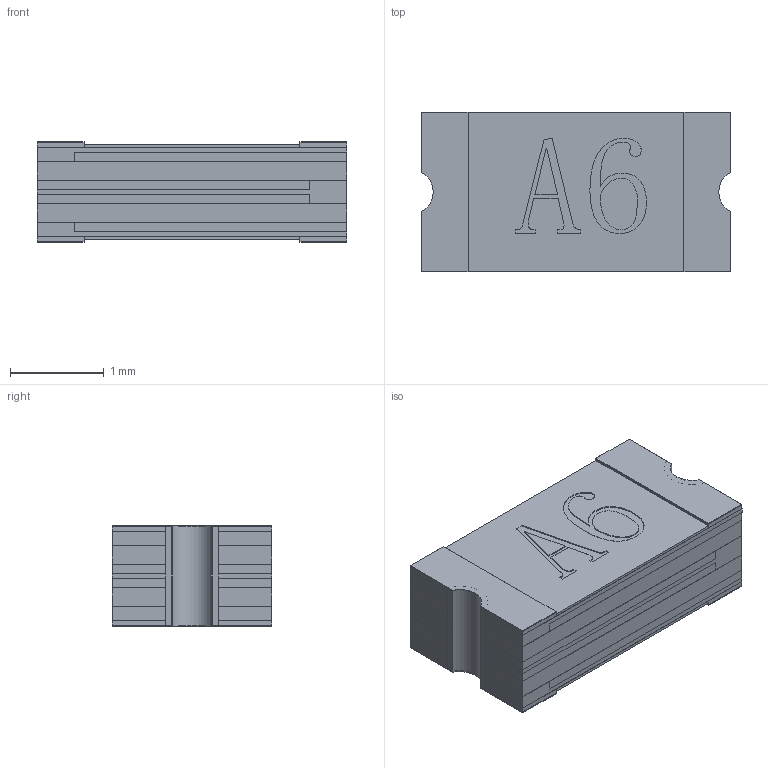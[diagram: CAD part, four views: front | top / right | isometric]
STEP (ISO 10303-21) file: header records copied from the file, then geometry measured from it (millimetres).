
FILE_DESCRIPTION (( 'STEP AP214' ), '1' );
FILE_NAME ('PTSxxx_1206_6L.STEP', '2021-04-27T08:22:34', ( '' ), ( '' ), 'SwSTEP 2.0', 'SolidWorks 2016', '' );
FILE_SCHEMA (( 'AUTOMOTIVE_DESIGN' ));
Length unit declared in the file: millimetre
Products named in the file (1): PTSxxx_1206_6L
Bounding box: 3.3 x 1.7 x 1.07 mm (x, y, z)
Volume: 5.7 mm3; surface area: 139.9 mm2
Topology: 19 solids, 19 shells, 266 faces, 660 edges, 440 vertices
Faces by surface type: plane 198, bspline 42, cylinder 26
Entity records: 12838 total; most frequent: CARTESIAN_POINT 3601, ORIENTED_EDGE 1320, DIRECTION 1078, EDGE_CURVE 660, LINE 524, VECTOR 524, VERTEX_POINT 440, UNCERTAINTY_MEASURE_WITH_UNIT 287
